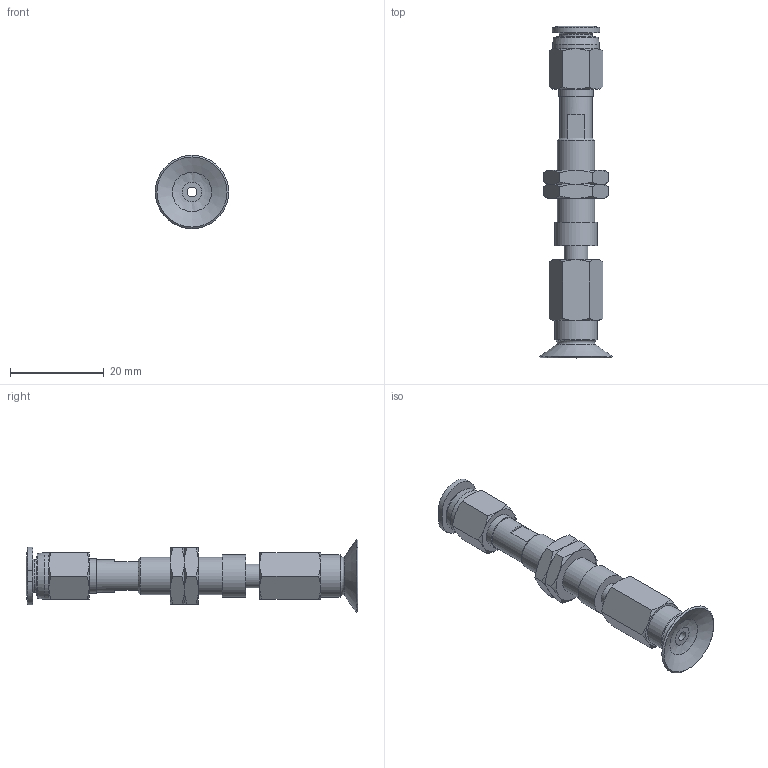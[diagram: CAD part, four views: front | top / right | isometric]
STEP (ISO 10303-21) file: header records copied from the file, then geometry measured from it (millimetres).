
FILE_DESCRIPTION(('STEP AP203'),'1');
FILE_NAME('-O.stp','2025-08-27T05:50:48',(' '),(' '),'Spatial InterOp 3D',' ',' ');
FILE_SCHEMA(('CONFIG_CONTROL_DESIGN'));
Length unit declared in the file: millimetre
Products named in the file (7): BNABPFTS-15A-3-※-O; ADAPTER; NAPATS-10A-3--M; Nut-15A-3-s; NAPFTS-15A-3-FBODY; BPFG-15A-※; PC-C_06-M5
Assembly tree (7 placements, depth 2):
  BNABPFTS-15A-3-※-O
    ADAPTER
    NAPATS-10A-3--M
    Nut-15A-3-s  x2
    NAPFTS-15A-3-FBODY
    BPFG-15A-※
    PC-C_06-M5
Bounding box: 15.7 x 70.98 x 15.7 mm (x, y, z)
Volume: 3497.4 mm3; surface area: 5226.7 mm2
Topology: 6 solids, 9 shells, 164 faces, 336 edges, 202 vertices
Faces by surface type: cone 62, plane 58, cylinder 25, torus 11, bspline 5, revolution 3
Full cylindrical faces by diameter (mm): 2 x3, 4 x4, 4.134 x1, 5 x3, 6 x2, 7 x2, 7.188 x2, 7.4 x1, 8 x1, 8.2 x1, 9 x2, 10 x1
Entity records: 4179 total; most frequent: CARTESIAN_POINT 1209, DIRECTION 549, ORIENTED_EDGE 458, AXIS2_PLACEMENT_3D 253, EDGE_CURVE 231, EDGE_LOOP 214, VERTEX_POINT 165, FACE_OUTER_BOUND 115
